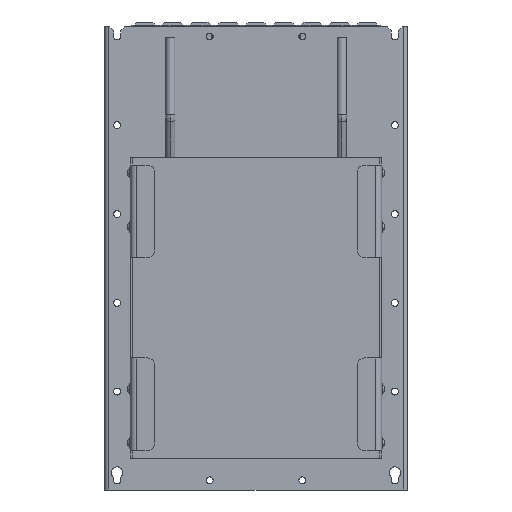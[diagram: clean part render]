
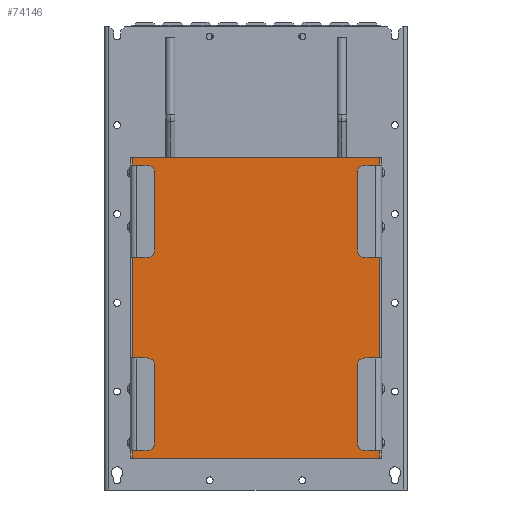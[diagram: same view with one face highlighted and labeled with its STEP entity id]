
A CAD part, front view. The second image highlights one B-rep face of the part: STEP entity #74146.
In plain terms, the highlighted planar face has unit normal (0, -1, 0).
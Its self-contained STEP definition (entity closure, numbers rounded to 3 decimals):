
#839 = ORIENTED_EDGE ( 'NONE', *, *, #85714, .T. ) ;
#1440 = CARTESIAN_POINT ( 'NONE',  ( -160., -25., 41. ) ) ;
#1979 = VERTEX_POINT ( 'NONE', #82425 ) ;
#2300 = VECTOR ( 'NONE', #43152, 1000. ) ;
#2734 = VERTEX_POINT ( 'NONE', #81153 ) ;
#3205 = VERTEX_POINT ( 'NONE', #44262 ) ;
#7028 = ORIENTED_EDGE ( 'NONE', *, *, #29380, .T. ) ;
#7409 = LINE ( 'NONE', #38247, #85266 ) ;
#8384 = VERTEX_POINT ( 'NONE', #35744 ) ;
#8489 = CARTESIAN_POINT ( 'NONE',  ( -160., -25., 41. ) ) ;
#8964 = VERTEX_POINT ( 'NONE', #46673 ) ;
#9072 = VECTOR ( 'NONE', #47231, 1000. ) ;
#9446 = VECTOR ( 'NONE', #96440, 1000. ) ;
#11082 = CARTESIAN_POINT ( 'NONE',  ( -160., -25., 41. ) ) ;
#11562 = CARTESIAN_POINT ( 'NONE',  ( 160., -25., 41. ) ) ;
#11792 = CARTESIAN_POINT ( 'NONE',  ( -160., -25., 431. ) ) ;
#16089 = CARTESIAN_POINT ( 'NONE',  ( -160., -25., 421. ) ) ;
#16834 = CARTESIAN_POINT ( 'NONE',  ( 160., -25., 41. ) ) ;
#19911 = CARTESIAN_POINT ( 'NONE',  ( -160., -25., 41. ) ) ;
#20404 = LINE ( 'NONE', #26494, #57734 ) ;
#20974 = CARTESIAN_POINT ( 'NONE',  ( -160., -25., 301. ) ) ;
#21074 = CARTESIAN_POINT ( 'NONE',  ( 160., -25., 41. ) ) ;
#21141 = VERTEX_POINT ( 'NONE', #63860 ) ;
#24695 = EDGE_CURVE ( 'NONE', #2734, #41060, #77952, .T. ) ;
#24697 = EDGE_CURVE ( 'NONE', #3205, #1979, #54042, .T. ) ;
#25720 = VECTOR ( 'NONE', #72623, 1000. ) ;
#25961 = LINE ( 'NONE', #11792, #25720 ) ;
#26330 = VECTOR ( 'NONE', #44332, 1000. ) ;
#26494 = CARTESIAN_POINT ( 'NONE',  ( 160., -25., 41. ) ) ;
#27250 = ORIENTED_EDGE ( 'NONE', *, *, #44183, .T. ) ;
#29380 = EDGE_CURVE ( 'NONE', #21141, #2734, #55915, .T. ) ;
#30177 = LINE ( 'NONE', #21074, #26330 ) ;
#31747 = EDGE_CURVE ( 'NONE', #72018, #41911, #65422, .T. ) ;
#35710 = EDGE_CURVE ( 'NONE', #71884, #8384, #86383, .T. ) ;
#35744 = CARTESIAN_POINT ( 'NONE',  ( 160., -25., 421. ) ) ;
#37115 = DIRECTION ( 'NONE',  ( 1., 0., 0. ) ) ;
#38247 = CARTESIAN_POINT ( 'NONE',  ( -160., -25., 41. ) ) ;
#39331 = DIRECTION ( 'NONE',  ( 0., 0., 1. ) ) ;
#41060 = VERTEX_POINT ( 'NONE', #1440 ) ;
#41179 = CARTESIAN_POINT ( 'NONE',  ( -160., -25., 41. ) ) ;
#41911 = VERTEX_POINT ( 'NONE', #16089 ) ;
#41933 = DIRECTION ( 'NONE',  ( 1., 0., 0. ) ) ;
#43059 = CARTESIAN_POINT ( 'NONE',  ( -160., -25., 41. ) ) ;
#43152 = DIRECTION ( 'NONE',  ( 0., 0., -1. ) ) ;
#43436 = VERTEX_POINT ( 'NONE', #59228 ) ;
#43649 = DIRECTION ( 'NONE',  ( 0., 0., 1. ) ) ;
#44183 = EDGE_CURVE ( 'NONE', #1979, #71884, #20404, .T. ) ;
#44218 = CARTESIAN_POINT ( 'NONE',  ( 0., -25., 41. ) ) ;
#44262 = CARTESIAN_POINT ( 'NONE',  ( 160., -25., 51. ) ) ;
#44332 = DIRECTION ( 'NONE',  ( 0., 0., 1. ) ) ;
#44693 = ORIENTED_EDGE ( 'NONE', *, *, #86294, .T. ) ;
#44997 = EDGE_CURVE ( 'NONE', #43436, #3205, #50540, .T. ) ;
#46618 = EDGE_CURVE ( 'NONE', #8964, #72018, #25961, .T. ) ;
#46673 = CARTESIAN_POINT ( 'NONE',  ( 160., -25., 431. ) ) ;
#47231 = DIRECTION ( 'NONE',  ( 0., 0., 1. ) ) ;
#47784 = ORIENTED_EDGE ( 'NONE', *, *, #73772, .T. ) ;
#49041 = CARTESIAN_POINT ( 'NONE',  ( 160., -25., 301. ) ) ;
#49179 = ORIENTED_EDGE ( 'NONE', *, *, #35710, .T. ) ;
#50306 = ORIENTED_EDGE ( 'NONE', *, *, #24697, .T. ) ;
#50500 = VECTOR ( 'NONE', #77459, 1000. ) ;
#50540 = LINE ( 'NONE', #11562, #75758 ) ;
#52326 = FACE_OUTER_BOUND ( 'NONE', #85671, .T. ) ;
#53952 = DIRECTION ( 'NONE',  ( 0., 0., -1. ) ) ;
#54042 = LINE ( 'NONE', #61675, #57003 ) ;
#55915 = LINE ( 'NONE', #41179, #57609 ) ;
#56652 = LINE ( 'NONE', #11082, #69041 ) ;
#57003 = VECTOR ( 'NONE', #39331, 1000. ) ;
#57424 = DIRECTION ( 'NONE',  ( 0., 0., -1. ) ) ;
#57609 = VECTOR ( 'NONE', #57424, 1000. ) ;
#57640 = DIRECTION ( 'NONE',  ( 0., 0., 1. ) ) ;
#57734 = VECTOR ( 'NONE', #43649, 1000. ) ;
#58446 = ORIENTED_EDGE ( 'NONE', *, *, #24695, .T. ) ;
#58810 = EDGE_CURVE ( 'NONE', #71606, #21141, #73147, .T. ) ;
#59228 = CARTESIAN_POINT ( 'NONE',  ( 160., -25., 41. ) ) ;
#61675 = CARTESIAN_POINT ( 'NONE',  ( 160., -25., 41. ) ) ;
#63860 = CARTESIAN_POINT ( 'NONE',  ( -160., -25., 171. ) ) ;
#63976 = ORIENTED_EDGE ( 'NONE', *, *, #46618, .T. ) ;
#65422 = LINE ( 'NONE', #43059, #9446 ) ;
#68574 = DIRECTION ( 'NONE',  ( 0., -1., 0. ) ) ;
#69041 = VECTOR ( 'NONE', #41933, 1000. ) ;
#71606 = VERTEX_POINT ( 'NONE', #20974 ) ;
#71884 = VERTEX_POINT ( 'NONE', #49041 ) ;
#72018 = VERTEX_POINT ( 'NONE', #72927 ) ;
#72516 = ORIENTED_EDGE ( 'NONE', *, *, #58810, .T. ) ;
#72623 = DIRECTION ( 'NONE',  ( -1., 0., 0. ) ) ;
#72927 = CARTESIAN_POINT ( 'NONE',  ( -160., -25., 431. ) ) ;
#73147 = LINE ( 'NONE', #19911, #2300 ) ;
#73772 = EDGE_CURVE ( 'NONE', #8384, #8964, #30177, .T. ) ;
#74146 = ADVANCED_FACE ( 'NONE', ( #52326 ), #91486, .T. ) ;
#75758 = VECTOR ( 'NONE', #57640, 1000. ) ;
#76521 = AXIS2_PLACEMENT_3D ( 'NONE', #44218, #68574, #37115 ) ;
#77459 = DIRECTION ( 'NONE',  ( 0., 0., -1. ) ) ;
#77952 = LINE ( 'NONE', #8489, #50500 ) ;
#81153 = CARTESIAN_POINT ( 'NONE',  ( -160., -25., 51. ) ) ;
#82425 = CARTESIAN_POINT ( 'NONE',  ( 160., -25., 171. ) ) ;
#84810 = ORIENTED_EDGE ( 'NONE', *, *, #31747, .T. ) ;
#85266 = VECTOR ( 'NONE', #53952, 1000. ) ;
#85671 = EDGE_LOOP ( 'NONE', ( #44693, #98835, #50306, #27250, #49179, #47784, #63976, #84810, #839, #72516, #7028, #58446 ) ) ;
#85714 = EDGE_CURVE ( 'NONE', #41911, #71606, #7409, .T. ) ;
#86294 = EDGE_CURVE ( 'NONE', #41060, #43436, #56652, .T. ) ;
#86383 = LINE ( 'NONE', #16834, #9072 ) ;
#91486 = PLANE ( 'NONE',  #76521 ) ;
#96440 = DIRECTION ( 'NONE',  ( 0., 0., -1. ) ) ;
#98835 = ORIENTED_EDGE ( 'NONE', *, *, #44997, .T. ) ;
